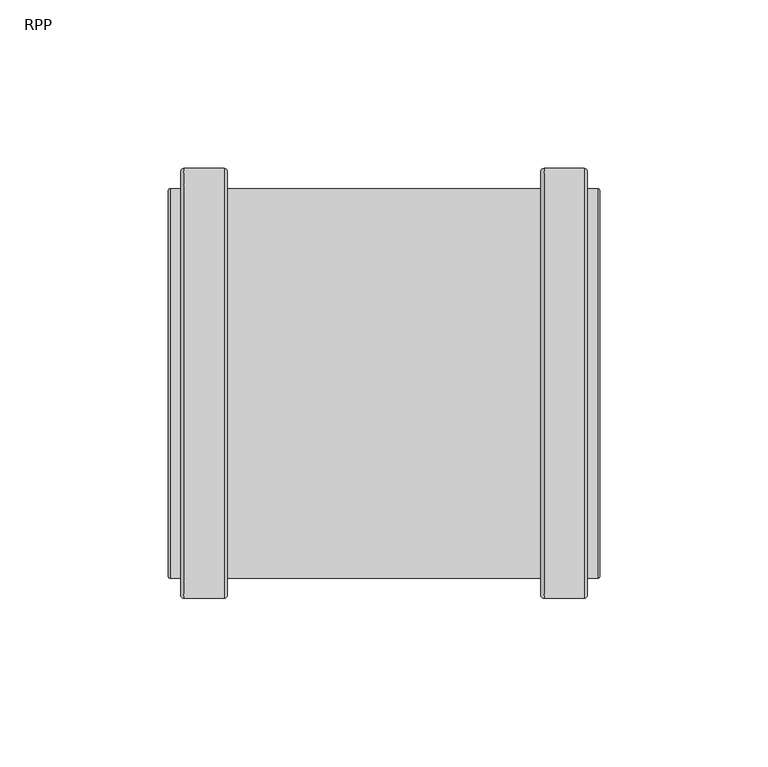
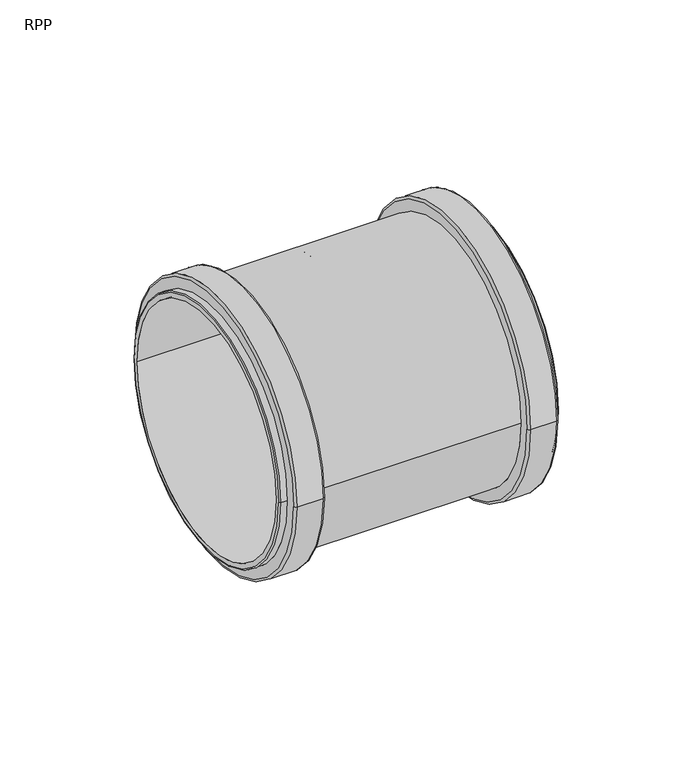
"""IFC4 building model written with IfcOpenShell, lengths in millimetres: pipe fitting geometry, RAUPIANO PLUS Double socket : RPP."""

from ifc_helpers import new_model, si_unit, point, frame, origin, place, context, project, spatial, polyline, circle_curve, ellipse_curve, trimmed, source, transform, mapped, element, save
from ifc_brep_helpers import plane_surface, cylinder_surface, revolved_surface, advanced_brep


def rpp_6e70d59e(model_context):
    return source(origin(), model_context, "Body", "AdvancedBrep", [
        advanced_brep(
        [(-59.4, 63.8, 0.0), (-59.4, -63.8, 0.0), (-60.4, -62.8, 0.0), (-60.4, 62.8, 0.0), (-47.5, 63.8, 0.0), (-47.5, -63.8, 0.0), (-46.5, 62.8, 0.0), (-46.5, -62.8, 0.0), (46.5, 57.8, 0.0), (46.5, -57.8, 0.0), (-46.5, -57.8, 0.0), (-46.5, 57.8, 0.0), (47.5, 63.8, 0.0), (47.5, -63.8, 0.0), (46.5, -62.8, 0.0), (46.5, 62.8, 0.0), (59.4, 63.8, 0.0), (59.4, -63.8, 0.0), (60.4, 62.8, 0.0), (60.4, -62.8, 0.0), (63.5, 57.8, 0.0), (63.5, -57.8, 0.0), (60.4, -57.8, 0.0), (60.4, 57.8, 0.0), (64.0, 57.3, 0.0), (64.0, -57.3, 0.0), (1.0, 55.0, 0.0), (1.0, -55.0, 0.0), (64.0, -55.0, 0.0), (64.0, 55.0, 0.0), (-1.0, 52.69828, 0.0), (-1.0, -52.69828, 0.0), (1.0, -52.69828, 0.0), (1.0, 52.69828, 0.0), (-64.0, 55.0, 0.0), (-64.0, -55.0, 0.0), (-1.0, -55.0, 0.0), (-1.0, 55.0, 0.0), (-63.5, 57.8, 0.0), (-63.5, -57.8, 0.0), (-64.0, -57.3, 0.0), (-64.0, 57.3, 0.0), (-60.4, 57.8, 0.0), (-60.4, -57.8, 0.0)],
        [
            (0, 1, circle_curve(frame((-59.4, 0.0, 0.0), z_axis=(-1.0, 0.0, 0.0), x_axis=(0.0, -1.0, 0.0)), 63.8)),
            (1, 2, circle_curve(frame((-59.4, -62.8, 0.0), z_axis=(0.0, 0.0, -1.0), x_axis=(1.0, 0.0, 0.0)), 1.0)),
            (2, 3, circle_curve(frame((-60.4, 0.0, 0.0), z_axis=(1.0, 0.0, 0.0), x_axis=(0.0, -1.0, 0.0)), 62.8)),
            (3, 0, circle_curve(frame((-59.4, 62.8, 0.0), z_axis=(0.0, 0.0, -1.0), x_axis=(1.0, 0.0, 0.0)), 1.0)),
            (4, 5, circle_curve(frame((-47.5, 0.0, 0.0), z_axis=(-1.0, 0.0, 0.0), x_axis=(0.0, -1.0, 0.0)), 63.8)),
            (5, 1),
            (0, 4),
            (6, 7, circle_curve(frame((-46.5, 0.0, 0.0), z_axis=(-1.0, 0.0, 0.0), x_axis=(0.0, -1.0, 0.0)), 62.8)),
            (7, 5, circle_curve(frame((-47.5, -62.8, 0.0), z_axis=(0.0, 0.0, -1.0), x_axis=(1.0, 0.0, 0.0)), 1.0)),
            (4, 6, circle_curve(frame((-47.5, 62.8, 0.0), z_axis=(0.0, 0.0, -1.0), x_axis=(1.0, 0.0, 0.0)), 1.0)),
            (8, 9, circle_curve(frame((46.5, 0.0, 0.0), z_axis=(-1.0, 0.0, 0.0), x_axis=(0.0, -1.0, 0.0)), 57.8)),
            (9, 10),
            (10, 11, circle_curve(frame((-46.5, 0.0, 0.0), z_axis=(1.0, 0.0, 0.0), x_axis=(0.0, -1.0, 0.0)), 57.8)),
            (11, 8),
            (12, 13, circle_curve(frame((47.5, 0.0, 0.0), z_axis=(-1.0, 0.0, 0.0), x_axis=(0.0, -1.0, 0.0)), 63.8)),
            (13, 14, circle_curve(frame((47.5, -62.8, 0.0), z_axis=(0.0, 0.0, -1.0), x_axis=(1.0, 0.0, 0.0)), 1.0)),
            (14, 15, circle_curve(frame((46.5, 0.0, 0.0), z_axis=(1.0, 0.0, 0.0), x_axis=(0.0, -1.0, 0.0)), 62.8)),
            (15, 12, circle_curve(frame((47.5, 62.8, 0.0), z_axis=(0.0, 0.0, -1.0), x_axis=(1.0, 0.0, 0.0)), 1.0)),
            (16, 17, circle_curve(frame((59.4, 0.0, 0.0), z_axis=(-1.0, 0.0, 0.0), x_axis=(0.0, -1.0, 0.0)), 63.8)),
            (17, 13),
            (12, 16),
            (18, 19, circle_curve(frame((60.4, 0.0, 0.0), z_axis=(-1.0, 0.0, 0.0), x_axis=(0.0, -1.0, 0.0)), 62.8)),
            (19, 17, circle_curve(frame((59.4, -62.8, 0.0), z_axis=(0.0, 0.0, -1.0), x_axis=(1.0, 0.0, 0.0)), 1.0)),
            (16, 18, circle_curve(frame((59.4, 62.8, 0.0), z_axis=(0.0, 0.0, -1.0), x_axis=(1.0, 0.0, 0.0)), 1.0)),
            (20, 21, circle_curve(frame((63.5, 0.0, 0.0), z_axis=(-1.0, 0.0, 0.0), x_axis=(0.0, -1.0, 0.0)), 57.8)),
            (21, 22),
            (22, 23, circle_curve(frame((60.4, 0.0, 0.0), z_axis=(1.0, 0.0, 0.0), x_axis=(0.0, -1.0, 0.0)), 57.8)),
            (23, 20),
            (24, 25, circle_curve(frame((64.0, 0.0, 0.0), z_axis=(-1.0, 0.0, 0.0), x_axis=(0.0, -1.0, 0.0)), 57.3)),
            (25, 21, circle_curve(frame((63.5, -57.3, 0.0), z_axis=(0.0, 0.0, -1.0), x_axis=(1.0, 0.0, 0.0)), 0.5)),
            (20, 24, circle_curve(frame((63.5, 57.3, 0.0), z_axis=(0.0, 0.0, -1.0), x_axis=(1.0, 0.0, 0.0)), 0.5)),
            (26, 27, circle_curve(frame((1.0, 0.0, 0.0), z_axis=(-1.0, 0.0, 0.0), x_axis=(0.0, -1.0, 0.0)), 55.0)),
            (27, 28),
            (28, 29, circle_curve(frame((64.0, 0.0, 0.0), z_axis=(1.0, 0.0, 0.0), x_axis=(0.0, -1.0, 0.0)), 55.0)),
            (29, 26),
            (30, 31, circle_curve(frame((-1.0, 0.0, 0.0), z_axis=(-1.0, 0.0, 0.0), x_axis=(0.0, -1.0, 0.0)), 52.69828)),
            (31, 32),
            (32, 33, circle_curve(frame((1.0, 0.0, 0.0), z_axis=(1.0, 0.0, 0.0), x_axis=(0.0, -1.0, 0.0)), 52.69828)),
            (33, 30),
            (34, 35, circle_curve(frame((-64.0, 0.0, 0.0), z_axis=(-1.0, 0.0, 0.0), x_axis=(0.0, -1.0, 0.0)), 55.0)),
            (35, 36),
            (36, 37, circle_curve(frame((-1.0, 0.0, 0.0), z_axis=(1.0, 0.0, 0.0), x_axis=(0.0, -1.0, 0.0)), 55.0)),
            (37, 34),
            (38, 39, circle_curve(frame((-63.5, 0.0, 0.0), z_axis=(-1.0, 0.0, 0.0), x_axis=(0.0, -1.0, 0.0)), 57.8)),
            (39, 40, circle_curve(frame((-63.5, -57.3, 0.0), z_axis=(0.0, 0.0, -1.0), x_axis=(1.0, 0.0, 0.0)), 0.5)),
            (40, 41, circle_curve(frame((-64.0, 0.0, 0.0), z_axis=(1.0, 0.0, 0.0), x_axis=(0.0, -1.0, 0.0)), 57.3)),
            (41, 38, circle_curve(frame((-63.5, 57.3, 0.0), z_axis=(0.0, 0.0, -1.0), x_axis=(1.0, 0.0, 0.0)), 0.5)),
            (42, 43, circle_curve(frame((-60.4, 0.0, 0.0), z_axis=(-1.0, 0.0, 0.0), x_axis=(0.0, -1.0, 0.0)), 57.8)),
            (43, 39),
            (38, 42),
            (2, 3, circle_curve(frame((-60.4, 0.0, 0.0), z_axis=(-1.0, 0.0, 0.0), x_axis=(0.0, 1.0, 0.0)), 62.8)),
            (42, 43, circle_curve(frame((-60.4, 0.0, 0.0), z_axis=(1.0, 0.0, 0.0), x_axis=(0.0, 1.0, 0.0)), 57.8)),
            (1, 0, circle_curve(frame((-59.4, 0.0, 0.0), z_axis=(-1.0, 0.0, 0.0), x_axis=(0.0, 1.0, 0.0)), 63.8)),
            (5, 4, circle_curve(frame((-47.5, 0.0, 0.0), z_axis=(-1.0, 0.0, 0.0), x_axis=(0.0, 1.0, 0.0)), 63.8)),
            (7, 6, circle_curve(frame((-46.5, 0.0, 0.0), z_axis=(-1.0, 0.0, 0.0), x_axis=(0.0, 1.0, 0.0)), 62.8)),
            (10, 11, circle_curve(frame((-46.5, 0.0, 0.0), z_axis=(-1.0, 0.0, 0.0), x_axis=(0.0, 1.0, 0.0)), 57.8)),
            (9, 8, circle_curve(frame((46.5, 0.0, 0.0), z_axis=(-1.0, 0.0, 0.0), x_axis=(0.0, 1.0, 0.0)), 57.8)),
            (14, 15, circle_curve(frame((46.5, 0.0, 0.0), z_axis=(-1.0, 0.0, 0.0), x_axis=(0.0, 1.0, 0.0)), 62.8)),
            (13, 12, circle_curve(frame((47.5, 0.0, 0.0), z_axis=(-1.0, 0.0, 0.0), x_axis=(0.0, 1.0, 0.0)), 63.8)),
            (17, 16, circle_curve(frame((59.4, 0.0, 0.0), z_axis=(-1.0, 0.0, 0.0), x_axis=(0.0, 1.0, 0.0)), 63.8)),
            (19, 18, circle_curve(frame((60.4, 0.0, 0.0), z_axis=(-1.0, 0.0, 0.0), x_axis=(0.0, 1.0, 0.0)), 62.8)),
            (22, 23, circle_curve(frame((60.4, 0.0, 0.0), z_axis=(-1.0, 0.0, 0.0), x_axis=(0.0, 1.0, 0.0)), 57.8)),
            (21, 20, circle_curve(frame((63.5, 0.0, 0.0), z_axis=(-1.0, 0.0, 0.0), x_axis=(0.0, 1.0, 0.0)), 57.8)),
            (25, 24, circle_curve(frame((64.0, 0.0, 0.0), z_axis=(-1.0, 0.0, 0.0), x_axis=(0.0, 1.0, 0.0)), 57.3)),
            (28, 29, circle_curve(frame((64.0, 0.0, 0.0), z_axis=(-1.0, 0.0, 0.0), x_axis=(0.0, 1.0, 0.0)), 55.0)),
            (27, 26, circle_curve(frame((1.0, 0.0, 0.0), z_axis=(-1.0, 0.0, 0.0), x_axis=(0.0, 1.0, 0.0)), 55.0)),
            (32, 33, circle_curve(frame((1.0, 0.0, 0.0), z_axis=(-1.0, 0.0, 0.0), x_axis=(0.0, 1.0, 0.0)), 52.69828)),
            (31, 30, circle_curve(frame((-1.0, 0.0, 0.0), z_axis=(-1.0, 0.0, 0.0), x_axis=(0.0, 1.0, 0.0)), 52.69828)),
            (36, 37, circle_curve(frame((-1.0, 0.0, 0.0), z_axis=(-1.0, 0.0, 0.0), x_axis=(0.0, 1.0, 0.0)), 55.0)),
            (35, 34, circle_curve(frame((-64.0, 0.0, 0.0), z_axis=(-1.0, 0.0, 0.0), x_axis=(0.0, 1.0, 0.0)), 55.0)),
            (40, 41, circle_curve(frame((-64.0, 0.0, 0.0), z_axis=(-1.0, 0.0, 0.0), x_axis=(0.0, 1.0, 0.0)), 57.3)),
            (39, 38, circle_curve(frame((-63.5, 0.0, 0.0), z_axis=(-1.0, 0.0, 0.0), x_axis=(0.0, 1.0, 0.0)), 57.8)),
        ],
        [
            revolved_surface(trimmed(ellipse_curve(frame((-59.4, -62.8, 0.0), z_axis=(0.0, 0.0, 1.0), x_axis=(1.0, 0.0, 0.0)), 1.0, 1.0), [point((-60.4, -62.8, 0.0))], [point((-59.4, -63.8, 0.0))], True, "CARTESIAN"), (0.0, 0.0, 0.0), (1.0, 0.0, 0.0)),
            cylinder_surface(frame((0.0, 0.0, 0.0), z_axis=(1.0, 0.0, 0.0), x_axis=(0.0, -1.0, 0.0)), 63.8),
            revolved_surface(trimmed(ellipse_curve(frame((-47.5, -62.8, 0.0), z_axis=(0.0, 0.0, 1.0), x_axis=(1.0, 0.0, 0.0)), 1.0, 1.0), [point((-47.5, -63.8, 0.0))], [point((-46.5, -62.8, 0.0))], True, "CARTESIAN"), (0.0, 0.0, 0.0), (1.0, 0.0, 0.0)),
            cylinder_surface(frame((0.0, 0.0, 0.0), z_axis=(1.0, 0.0, 0.0), x_axis=(0.0, -1.0, 0.0)), 57.8),
            revolved_surface(trimmed(ellipse_curve(frame((47.5, -62.8, 0.0), z_axis=(0.0, 0.0, 1.0), x_axis=(1.0, 0.0, 0.0)), 1.0, 1.0), [point((46.5, -62.8, 0.0))], [point((47.5, -63.8, 0.0))], True, "CARTESIAN"), (0.0, 0.0, 0.0), (1.0, 0.0, 0.0)),
            revolved_surface(trimmed(ellipse_curve(frame((59.4, -62.8, 0.0), z_axis=(0.0, 0.0, 1.0), x_axis=(1.0, 0.0, 0.0)), 1.0, 1.0), [point((59.4, -63.8, 0.0))], [point((60.4, -62.8, 0.0))], True, "CARTESIAN"), (0.0, 0.0, 0.0), (1.0, 0.0, 0.0)),
            revolved_surface(trimmed(ellipse_curve(frame((63.5, -57.3, 0.0), z_axis=(0.0, 0.0, 1.0), x_axis=(1.0, 0.0, 0.0)), 0.5, 0.5), [point((63.5, -57.8, 0.0))], [point((64.0, -57.3, 0.0))], True, "CARTESIAN"), (0.0, 0.0, 0.0), (1.0, 0.0, 0.0)),
            revolved_surface(polyline([(64.0, -55.0, 0.0), (1.0, -55.0, 0.0)]), (0.0, 0.0, 0.0), (1.0, 0.0, 0.0)),
            revolved_surface(polyline([(1.0, -52.69828, 0.0), (-1.0, -52.69828, 0.0)]), (0.0, 0.0, 0.0), (1.0, 0.0, 0.0)),
            revolved_surface(polyline([(-1.0, -55.0, 0.0), (-64.0, -55.0, 0.0)]), (0.0, 0.0, 0.0), (1.0, 0.0, 0.0)),
            revolved_surface(trimmed(ellipse_curve(frame((-63.5, -57.3, 0.0), z_axis=(0.0, 0.0, 1.0), x_axis=(1.0, 0.0, 0.0)), 0.5, 0.5), [point((-64.0, -57.3, 0.0))], [point((-63.5, -57.8, 0.0))], True, "CARTESIAN"), (0.0, 0.0, 0.0), (1.0, 0.0, 0.0)),
            plane_surface(frame((-60.4, 0.0, 0.0), z_axis=(-1.0, 0.0, 0.0), x_axis=(0.0, 1.0, 0.0))),
            revolved_surface(trimmed(ellipse_curve(frame((-59.4, 62.8, 0.0), z_axis=(0.0, 0.0, -1.0), x_axis=(1.0, 0.0, 0.0)), 1.0, 1.0), [point((-60.4, 62.8, 0.0))], [point((-59.4, 63.8, 0.0))], True, "CARTESIAN"), (0.0, 0.0, 0.0), (1.0, 0.0, 0.0)),
            cylinder_surface(frame((0.0, 0.0, 0.0), z_axis=(1.0, 0.0, 0.0), x_axis=(0.0, 1.0, 0.0)), 63.8),
            revolved_surface(trimmed(ellipse_curve(frame((-47.5, 62.8, 0.0), z_axis=(0.0, 0.0, -1.0), x_axis=(1.0, 0.0, 0.0)), 1.0, 1.0), [point((-47.5, 63.8, 0.0))], [point((-46.5, 62.8, 0.0))], True, "CARTESIAN"), (0.0, 0.0, 0.0), (1.0, 0.0, 0.0)),
            plane_surface(frame((-46.5, 0.0, 0.0), z_axis=(1.0, 0.0, 0.0), x_axis=(0.0, 1.0, 0.0))),
            cylinder_surface(frame((0.0, 0.0, 0.0), z_axis=(1.0, 0.0, 0.0), x_axis=(0.0, 1.0, 0.0)), 57.8),
            plane_surface(frame((46.5, 0.0, 0.0), z_axis=(-1.0, 0.0, 0.0), x_axis=(0.0, 1.0, 0.0))),
            revolved_surface(trimmed(ellipse_curve(frame((47.5, 62.8, 0.0), z_axis=(0.0, 0.0, -1.0), x_axis=(1.0, 0.0, 0.0)), 1.0, 1.0), [point((46.5, 62.8, 0.0))], [point((47.5, 63.8, 0.0))], True, "CARTESIAN"), (0.0, 0.0, 0.0), (1.0, 0.0, 0.0)),
            revolved_surface(trimmed(ellipse_curve(frame((59.4, 62.8, 0.0), z_axis=(0.0, 0.0, -1.0), x_axis=(1.0, 0.0, 0.0)), 1.0, 1.0), [point((59.4, 63.8, 0.0))], [point((60.4, 62.8, 0.0))], True, "CARTESIAN"), (0.0, 0.0, 0.0), (1.0, 0.0, 0.0)),
            plane_surface(frame((60.4, 0.0, 0.0), z_axis=(1.0, 0.0, 0.0), x_axis=(0.0, 1.0, 0.0))),
            revolved_surface(trimmed(ellipse_curve(frame((63.5, 57.3, 0.0), z_axis=(0.0, 0.0, -1.0), x_axis=(1.0, 0.0, 0.0)), 0.5, 0.5), [point((63.5, 57.8, 0.0))], [point((64.0, 57.3, 0.0))], True, "CARTESIAN"), (0.0, 0.0, 0.0), (1.0, 0.0, 0.0)),
            plane_surface(frame((64.0, 0.0, 0.0), z_axis=(1.0, 0.0, 0.0), x_axis=(0.0, 1.0, 0.0))),
            revolved_surface(polyline([(64.0, 55.0, 0.0), (1.0, 55.0, 0.0)]), (0.0, 0.0, 0.0), (1.0, 0.0, 0.0)),
            plane_surface(frame((1.0, 0.0, 0.0), z_axis=(1.0, 0.0, 0.0), x_axis=(0.0, 1.0, 0.0))),
            revolved_surface(polyline([(1.0, 52.69828, 0.0), (-1.0, 52.69828, 0.0)]), (0.0, 0.0, 0.0), (1.0, 0.0, 0.0)),
            plane_surface(frame((-1.0, 0.0, 0.0), z_axis=(-1.0, 0.0, 0.0), x_axis=(0.0, 1.0, 0.0))),
            revolved_surface(polyline([(-1.0, 55.0, 0.0), (-64.0, 55.0, 0.0)]), (0.0, 0.0, 0.0), (1.0, 0.0, 0.0)),
            plane_surface(frame((-64.0, 0.0, 0.0), z_axis=(-1.0, 0.0, 0.0), x_axis=(0.0, 1.0, 0.0))),
            revolved_surface(trimmed(ellipse_curve(frame((-63.5, 57.3, 0.0), z_axis=(0.0, 0.0, -1.0), x_axis=(1.0, 0.0, 0.0)), 0.5, 0.5), [point((-64.0, 57.3, 0.0))], [point((-63.5, 57.8, 0.0))], True, "CARTESIAN"), (0.0, 0.0, 0.0), (1.0, 0.0, 0.0)),
        ],
        [
            (0, [[1, 2, 3, 4]]),
            (1, [[5, 6, -1, 7]]),
            (2, [[8, 9, -5, 10]]),
            (3, [[11, 12, 13, 14]]),
            (4, [[15, 16, 17, 18]]),
            (1, [[19, 20, -15, 21]]),
            (5, [[22, 23, -19, 24]]),
            (3, [[25, 26, 27, 28]]),
            (6, [[29, 30, -25, 31]]),
            (7, [[32, 33, 34, 35]]),
            (8, [[36, 37, 38, 39]]),
            (9, [[40, 41, 42, 43]]),
            (10, [[44, 45, 46, 47]]),
            (3, [[48, 49, -44, 50]]),
            (11, [[51, -3], [52, -48]]),
            (12, [[53, -4, -51, -2]]),
            (13, [[54, -7, -53, -6]]),
            (14, [[55, -10, -54, -9]]),
            (15, [[-55, -8], [56, -13]]),
            (16, [[57, -14, -56, -12]]),
            (17, [[58, -17], [-57, -11]]),
            (18, [[59, -18, -58, -16]]),
            (13, [[60, -21, -59, -20]]),
            (19, [[61, -24, -60, -23]]),
            (20, [[-61, -22], [62, -27]]),
            (16, [[63, -28, -62, -26]]),
            (21, [[64, -31, -63, -30]]),
            (22, [[-64, -29], [65, -34]]),
            (23, [[66, -35, -65, -33]]),
            (24, [[-66, -32], [67, -38]]),
            (25, [[68, -39, -67, -37]]),
            (26, [[69, -42], [-68, -36]]),
            (27, [[70, -43, -69, -41]]),
            (28, [[71, -46], [-70, -40]]),
            (29, [[72, -47, -71, -45]]),
            (16, [[-52, -50, -72, -49]]),
        ],
    ),
    ])


if __name__ == "__main__":
    model = new_model("IFC4")
    model_context = context("Model", 3, world=origin())
    ifc_project = project(units=[si_unit("LENGTHUNIT", "METRE", prefix="MILLI")], contexts=[model_context])
    site = spatial("IfcSite", under=ifc_project)
    building = spatial("IfcBuilding", under=site)
    placement = place(None, origin())
    rpp_shape = rpp_6e70d59e(model_context)
    element("IfcPipeFitting", 1, ObjectType="RAUPIANO PLUS Double socket : RPP", at=placement, inside=building, context=model_context, shape_type="MappedRepresentation", body=[
        mapped(rpp_shape, transform((0.0, 0.0, 0.0), x_axis=(1.0, 0.0, 0.0), y_axis=(0.0, 1.0, 0.0), z_axis=(0.0, 0.0, 1.0))),
    ])
    save(model, "model.ifc")
